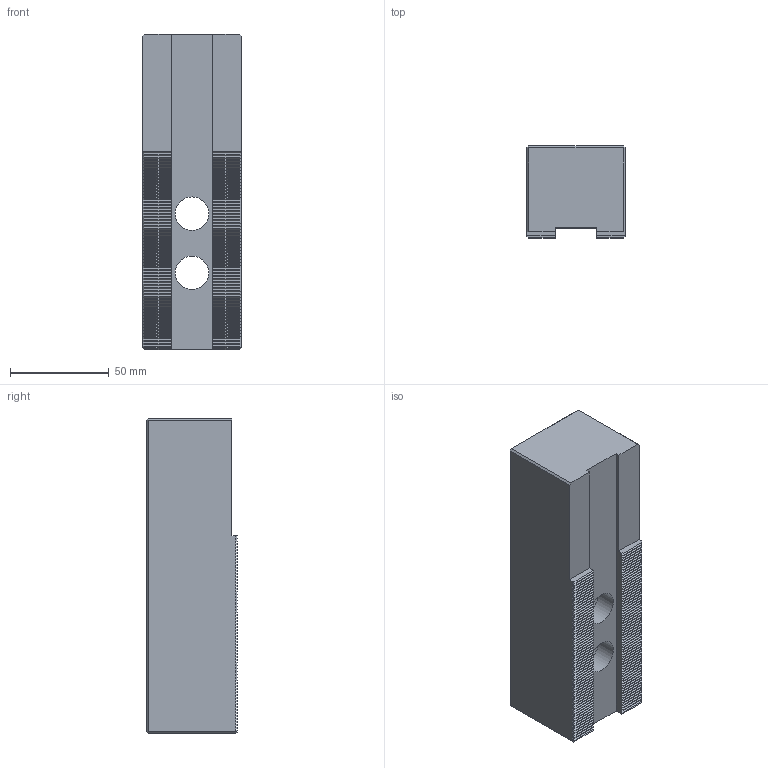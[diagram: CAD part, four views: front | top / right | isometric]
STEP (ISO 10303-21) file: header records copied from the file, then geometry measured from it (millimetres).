
FILE_DESCRIPTION(/* description */ (''),/* implementation_level */ '2;1');
FILE_NAME(/* name */ '',/* time_stamp */ '2025-10-20T15:03:51+03:00',/* author */ ('Arina Rekina'),/* organization */ (''),/* preprocessor_version */ 'ST-DEVELOPER v19.2',/* originating_system */ 'Autodesk Inventor 2024',/* authorisation */ '');
FILE_SCHEMA (('AUTOMOTIVE_DESIGN { 1 0 10303 214 3 1 1 }'));
Length unit declared in the file: millimetre
Products named in the file (1): SC-12-21(160мм) 
Bounding box: 50 x 46.5 x 160 mm (x, y, z)
Volume: 314213.9 mm3; surface area: 42578.7 mm2
Topology: 1 solids, 1 shells, 570 faces, 1414 edges, 848 vertices
Faces by surface type: plane 564, cylinder 4, cone 2
Full cylindrical faces by diameter (mm): 17 x2, 24.5 x2
Entity records: 16229 total; most frequent: CARTESIAN_POINT 2833, ORIENTED_EDGE 2828, DIRECTION 2568, EDGE_CURVE 1414, LINE 1402, VECTOR 1402, VERTEX_POINT 848, AXIS2_PLACEMENT_3D 583
